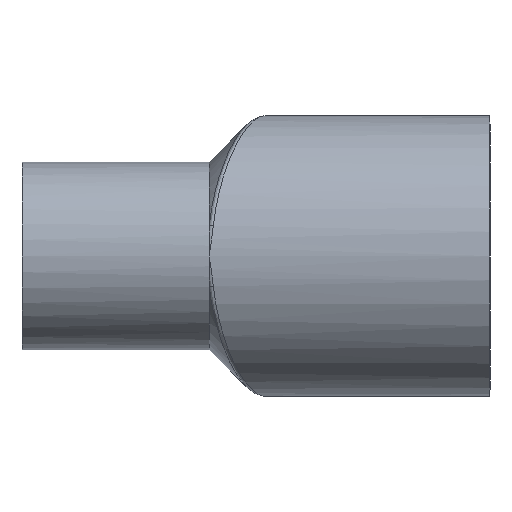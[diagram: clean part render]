
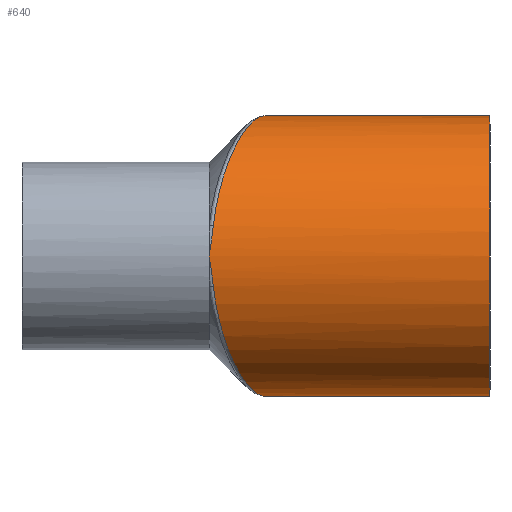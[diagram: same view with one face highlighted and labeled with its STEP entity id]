
A CAD part, front view. The second image highlights one B-rep face of the part: STEP entity #640.
In plain terms, the highlighted cylindrical face has radius 19.05 mm (diameter 38.1 mm), a partial arc.
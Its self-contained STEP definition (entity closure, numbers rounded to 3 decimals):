
#56 = CARTESIAN_POINT ( 'NONE',  ( -32.255, -5.751, 18.169 ) ) ;
#62 = CARTESIAN_POINT ( 'NONE',  ( -36.611, -16.67, 9.284 ) ) ;
#68 = CARTESIAN_POINT ( 'NONE',  ( -38.1, -19.05, 0. ) ) ;
#77 = ORIENTED_EDGE ( 'NONE', *, *, #383, .F. ) ;
#84 = EDGE_CURVE ( 'NONE', #1086, #800, #1183, .T. ) ;
#85 = CARTESIAN_POINT ( 'NONE',  ( -36.953, -17.389, -7.799 ) ) ;
#88 = CARTESIAN_POINT ( 'NONE',  ( -33.135, -8.208, -17.199 ) ) ;
#97 = CARTESIAN_POINT ( 'NONE',  ( -37.543, -18.594, -4.142 ) ) ;
#116 = CARTESIAN_POINT ( 'NONE',  ( -30.351, 0., -19.05 ) ) ;
#147 = CARTESIAN_POINT ( 'NONE',  ( -33.133, -8.209, 17.223 ) ) ;
#152 = CARTESIAN_POINT ( 'NONE',  ( -37.151, -17.8, 6.809 ) ) ;
#169 = CARTESIAN_POINT ( 'NONE',  ( -36.606, -16.655, -9.264 ) ) ;
#172 = CARTESIAN_POINT ( 'NONE',  ( -32.603, -6.738, -17.826 ) ) ;
#178 = ORIENTED_EDGE ( 'NONE', *, *, #1236, .T. ) ;
#183 = VECTOR ( 'NONE', #367, 1000. ) ;
#241 = CARTESIAN_POINT ( 'NONE',  ( -30.685, -1.061, 19.05 ) ) ;
#252 = CARTESIAN_POINT ( 'NONE',  ( -33.833, -10.066, 16.182 ) ) ;
#263 = CARTESIAN_POINT ( 'NONE',  ( -37.409, -18.326, 5.23 ) ) ;
#269 = ORIENTED_EDGE ( 'NONE', *, *, #945, .T. ) ;
#284 = CARTESIAN_POINT ( 'NONE',  ( -36.08, -15.506, -11.12 ) ) ;
#288 = CARTESIAN_POINT ( 'NONE',  ( -31.725, -4.218, -18.607 ) ) ;
#367 = DIRECTION ( 'NONE',  ( 1., 0., 0. ) ) ;
#371 = CARTESIAN_POINT ( 'NONE',  ( -34.349, -11.386, 15.282 ) ) ;
#374 = CARTESIAN_POINT ( 'NONE',  ( -30.351, 0., 19.05 ) ) ;
#376 = CARTESIAN_POINT ( 'NONE',  ( -37.543, -18.594, 4.142 ) ) ;
#383 = EDGE_CURVE ( 'NONE', #922, #1086, #1018, .T. ) ;
#384 = CARTESIAN_POINT ( 'NONE',  ( -37.421, -18.351, -5.235 ) ) ;
#388 = CARTESIAN_POINT ( 'NONE',  ( -35.33, -13.778, -13.166 ) ) ;
#391 = CARTESIAN_POINT ( 'NONE',  ( -31.034, -2.132, -18.938 ) ) ;
#398 = EDGE_CURVE ( 'NONE', #1069, #800, #735, .T. ) ;
#406 = CYLINDRICAL_SURFACE ( 'NONE', #1324, 19.05 ) ;
#444 = CARTESIAN_POINT ( 'NONE',  ( -63.5, 0., 0. ) ) ;
#467 = CARTESIAN_POINT ( 'NONE',  ( -35.172, -13.411, 13.572 ) ) ;
#476 = CARTESIAN_POINT ( 'NONE',  ( -37.619, -18.746, 3.459 ) ) ;
#492 = CARTESIAN_POINT ( 'NONE',  ( -34.846, -12.618, -14.282 ) ) ;
#498 = CARTESIAN_POINT ( 'NONE',  ( -30.519, -0.533, -19.05 ) ) ;
#499 = VERTEX_POINT ( 'NONE', #552 ) ;
#508 = VERTEX_POINT ( 'NONE', #1077 ) ;
#529 = ORIENTED_EDGE ( 'NONE', *, *, #741, .T. ) ;
#531 = DIRECTION ( 'NONE',  ( 1., 0., 0. ) ) ;
#552 = CARTESIAN_POINT ( 'NONE',  ( -37.543, -18.594, -4.142 ) ) ;
#560 = DIRECTION ( 'NONE',  ( 1., 0., 0. ) ) ;
#580 = CARTESIAN_POINT ( 'NONE',  ( -31.55, -3.691, 18.697 ) ) ;
#581 = DIRECTION ( 'NONE',  ( 1., 0., 0. ) ) ;
#587 = CARTESIAN_POINT ( 'NONE',  ( -35.785, -14.834, 11.965 ) ) ;
#591 = CARTESIAN_POINT ( 'NONE',  ( -37.709, -18.86, 2.77 ) ) ;
#599 = AXIS2_PLACEMENT_3D ( 'NONE', #1274, #531, #1170 ) ;
#613 = CARTESIAN_POINT ( 'NONE',  ( -34.176, -10.956, -15.621 ) ) ;
#618 = B_SPLINE_CURVE_WITH_KNOTS ( 'NONE', 3,
 ( #1121, #476, #591, #1327, #706, #68 ),
 .UNSPECIFIED., .F., .F.,
 ( 4, 2, 4 ),
 ( 0., 0.002, 0.004 ),
 .UNSPECIFIED. ) ;
#640 = ADVANCED_FACE ( 'NONE', ( #1126 ), #406, .T. ) ;
#651 = CARTESIAN_POINT ( 'NONE',  ( 0., 0., 19.05 ) ) ;
#691 = CARTESIAN_POINT ( 'NONE',  ( -32.079, -5.244, 18.322 ) ) ;
#697 = CARTESIAN_POINT ( 'NONE',  ( -36.215, -15.801, 10.654 ) ) ;
#705 = EDGE_CURVE ( 'NONE', #922, #508, #856, .T. ) ;
#706 = CARTESIAN_POINT ( 'NONE',  ( -37.999, -19.05, 0.696 ) ) ;
#716 = CARTESIAN_POINT ( 'NONE',  ( -37.255, -18.017, -6.285 ) ) ;
#720 = CARTESIAN_POINT ( 'NONE',  ( -33.311, -8.683, -16.964 ) ) ;
#732 = CARTESIAN_POINT ( 'NONE',  ( -37.696, -18.898, -2.777 ) ) ;
#735 = LINE ( 'NONE', #798, #982 ) ;
#741 = EDGE_CURVE ( 'NONE', #508, #1341, #618, .T. ) ;
#745 = CARTESIAN_POINT ( 'NONE',  ( -38.1, -19.05, 0. ) ) ;
#790 = CARTESIAN_POINT ( 'NONE',  ( 0., 0., -19.05 ) ) ;
#797 = CARTESIAN_POINT ( 'NONE',  ( -32.782, -7.245, 17.65 ) ) ;
#798 = CARTESIAN_POINT ( 'NONE',  ( -63.5, 0., -19.05 ) ) ;
#800 = VERTEX_POINT ( 'NONE', #790 ) ;
#803 = CARTESIAN_POINT ( 'NONE',  ( -36.848, -17.17, 8.324 ) ) ;
#823 = CARTESIAN_POINT ( 'NONE',  ( -36.843, -17.158, -8.294 ) ) ;
#827 = CARTESIAN_POINT ( 'NONE',  ( -32.781, -7.235, -17.63 ) ) ;
#856 = B_SPLINE_CURVE_WITH_KNOTS ( 'NONE', 3,
 ( #891, #241, #1213, #580, #1315, #691, #56, #797, #147, #905, #252, #1004, #371, #1114, #467, #1217, #587, #1321, #697, #62, #803, #152, #910, #263, #1010, #376 ),
 .UNSPECIFIED., .F., .F.,
 ( 4, 2, 2, 2, 2, 2, 2, 2, 2, 2, 2, 2, 4 ),
 ( 0.087, 0.091, 0.092, 0.094, 0.097, 0.099, 0.101, 0.104, 0.106, 0.107, 0.111, 0.112, 0.114 ),
 .UNSPECIFIED. ) ;
#891 = CARTESIAN_POINT ( 'NONE',  ( -30.351, 0., 19.05 ) ) ;
#905 = CARTESIAN_POINT ( 'NONE',  ( -33.658, -9.606, 16.459 ) ) ;
#910 = CARTESIAN_POINT ( 'NONE',  ( -37.244, -17.99, 6.292 ) ) ;
#922 = VERTEX_POINT ( 'NONE', #374 ) ;
#928 = CARTESIAN_POINT ( 'NONE',  ( -36.479, -16.38, -9.741 ) ) ;
#931 = CARTESIAN_POINT ( 'NONE',  ( -32.074, -5.238, -18.346 ) ) ;
#945 = EDGE_CURVE ( 'NONE', #1341, #499, #1244, .T. ) ;
#982 = VECTOR ( 'NONE', #581, 1000. ) ;
#1002 = ORIENTED_EDGE ( 'NONE', *, *, #705, .T. ) ;
#1004 = CARTESIAN_POINT ( 'NONE',  ( -34.179, -10.956, 15.594 ) ) ;
#1010 = CARTESIAN_POINT ( 'NONE',  ( -37.482, -18.472, 4.689 ) ) ;
#1018 = LINE ( 'NONE', #1107, #183 ) ;
#1023 = CARTESIAN_POINT ( 'NONE',  ( -35.791, -14.855, -11.975 ) ) ;
#1026 = CARTESIAN_POINT ( 'NONE',  ( -31.206, -2.657, -18.871 ) ) ;
#1069 = VERTEX_POINT ( 'NONE', #116 ) ;
#1077 = CARTESIAN_POINT ( 'NONE',  ( -37.543, -18.594, 4.142 ) ) ;
#1086 = VERTEX_POINT ( 'NONE', #651 ) ;
#1107 = CARTESIAN_POINT ( 'NONE',  ( -63.5, 0., 19.05 ) ) ;
#1114 = CARTESIAN_POINT ( 'NONE',  ( -34.85, -12.635, 14.297 ) ) ;
#1121 = CARTESIAN_POINT ( 'NONE',  ( -37.543, -18.594, 4.142 ) ) ;
#1126 = FACE_OUTER_BOUND ( 'NONE', #1319, .T. ) ;
#1138 = CARTESIAN_POINT ( 'NONE',  ( -35.171, -13.403, -13.548 ) ) ;
#1142 = CARTESIAN_POINT ( 'NONE',  ( -30.691, -1.071, -19.027 ) ) ;
#1147 = B_SPLINE_CURVE_WITH_KNOTS ( 'NONE', 3,
 ( #1237, #384, #716, #85, #823, #169, #928, #284, #1023, #388, #1138, #492, #1239, #613, #1348, #720, #88, #827, #172, #931, #288, #1026, #391, #1142, #498, #1245 ),
 .UNSPECIFIED., .F., .F.,
 ( 4, 2, 2, 2, 2, 2, 2, 2, 2, 2, 2, 2, 4 ),
 ( 0., 0.003, 0.005, 0.007, 0.01, 0.012, 0.013, 0.017, 0.018, 0.02, 0.023, 0.025, 0.027 ),
 .UNSPECIFIED. ) ;
#1170 = DIRECTION ( 'NONE',  ( 0., 0., -1. ) ) ;
#1183 = CIRCLE ( 'NONE', #599, 19.05 ) ;
#1204 = ORIENTED_EDGE ( 'NONE', *, *, #398, .T. ) ;
#1213 = CARTESIAN_POINT ( 'NONE',  ( -31.026, -2.116, 18.962 ) ) ;
#1217 = CARTESIAN_POINT ( 'NONE',  ( -35.634, -14.489, 12.38 ) ) ;
#1220 = CARTESIAN_POINT ( 'NONE',  ( -38.1, -19.05, 0. ) ) ;
#1236 = EDGE_CURVE ( 'NONE', #499, #1069, #1147, .T. ) ;
#1237 = CARTESIAN_POINT ( 'NONE',  ( -37.543, -18.594, -4.142 ) ) ;
#1239 = CARTESIAN_POINT ( 'NONE',  ( -34.679, -12.21, -14.632 ) ) ;
#1244 = B_SPLINE_CURVE_WITH_KNOTS ( 'NONE', 3,
 ( #1220, #1254, #732, #97 ),
 .UNSPECIFIED., .F., .F.,
 ( 4, 4 ),
 ( 0., 0.004 ),
 .UNSPECIFIED. ) ;
#1245 = CARTESIAN_POINT ( 'NONE',  ( -30.351, 0., -19.05 ) ) ;
#1254 = CARTESIAN_POINT ( 'NONE',  ( -37.898, -19.05, -1.387 ) ) ;
#1274 = CARTESIAN_POINT ( 'NONE',  ( 0., 0., 0. ) ) ;
#1297 = DIRECTION ( 'NONE',  ( 0., 0., -1. ) ) ;
#1315 = CARTESIAN_POINT ( 'NONE',  ( -31.727, -4.216, 18.585 ) ) ;
#1319 = EDGE_LOOP ( 'NONE', ( #77, #1002, #529, #269, #178, #1204, #1369 ) ) ;
#1321 = CARTESIAN_POINT ( 'NONE',  ( -36.076, -15.492, 11.099 ) ) ;
#1324 = AXIS2_PLACEMENT_3D ( 'NONE', #444, #560, #1297 ) ;
#1327 = CARTESIAN_POINT ( 'NONE',  ( -37.898, -19.012, 1.389 ) ) ;
#1341 = VERTEX_POINT ( 'NONE', #745 ) ;
#1348 = CARTESIAN_POINT ( 'NONE',  ( -33.834, -10.074, -16.203 ) ) ;
#1369 = ORIENTED_EDGE ( 'NONE', *, *, #84, .F. ) ;
